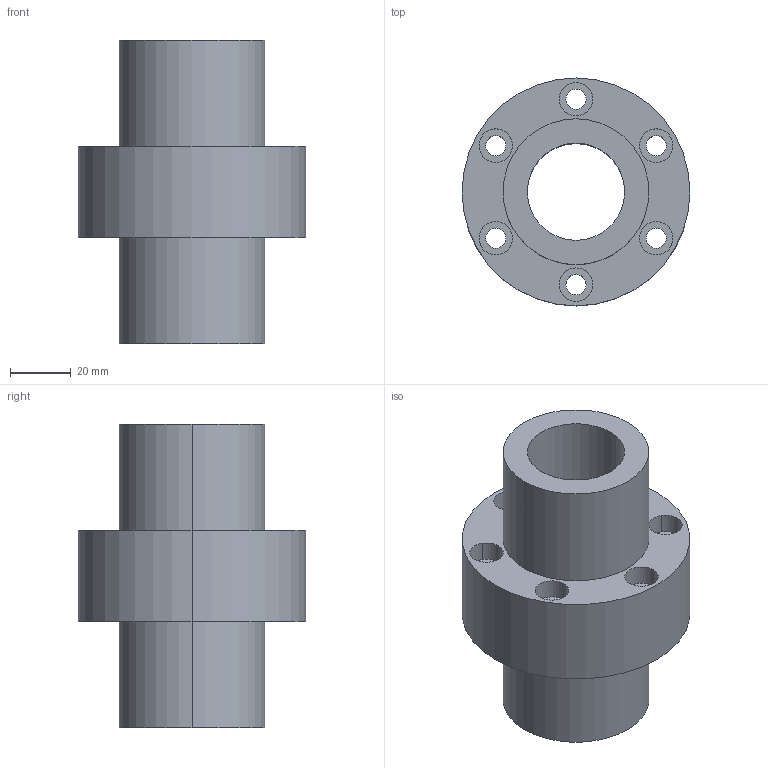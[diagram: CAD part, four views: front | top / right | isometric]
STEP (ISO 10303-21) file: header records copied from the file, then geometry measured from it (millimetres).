
FILE_DESCRIPTION((''),'2;1');
FILE_NAME('32-5T3','2008-04-03T',('yanyu'),(''),'PRO/ENGINEER BY PARAMETRIC TECHNOLOGY CORPORATION, 2005070','PRO/ENGINEER BY PARAMETRIC TECHNOLOGY CORPORATION, 2005070','');
FILE_SCHEMA(('CONFIG_CONTROL_DESIGN'));
Length unit declared in the file: millimetre
Products named in the file (1): 32-5T3
Bounding box: 75 x 75 x 100 mm (x, y, z)
Volume: 170250 mm3; surface area: 38765.4 mm2
Topology: 1 solids, 1 shells, 42 faces, 100 edges, 68 vertices
Faces by surface type: cylinder 32, plane 10
Entity records: 1330 total; most frequent: DIRECTION 252, CARTESIAN_POINT 210, ORIENTED_EDGE 200, AXIS2_PLACEMENT_3D 110, EDGE_CURVE 100, VERTEX_POINT 68, CIRCLE 68, EDGE_LOOP 64
